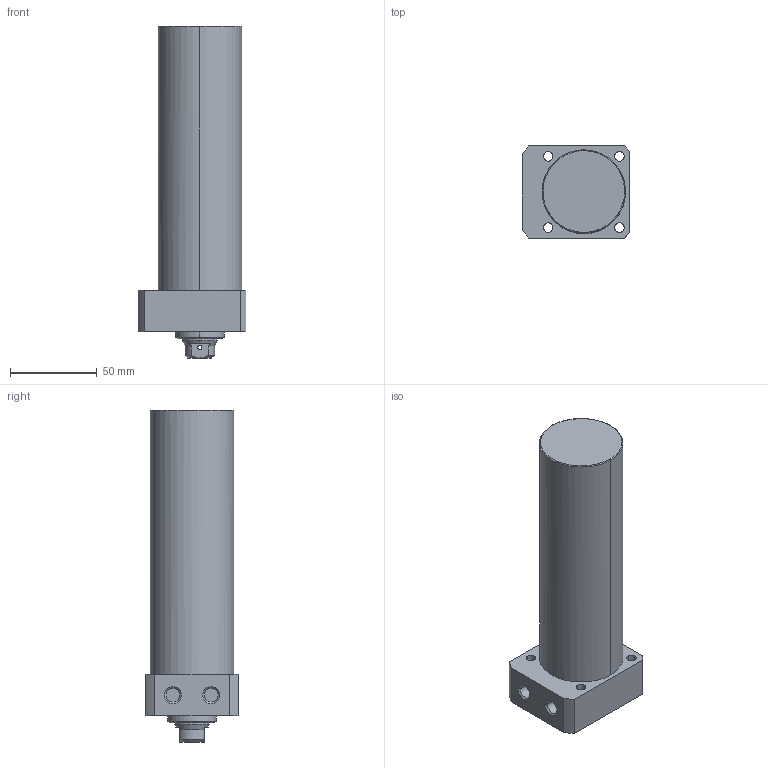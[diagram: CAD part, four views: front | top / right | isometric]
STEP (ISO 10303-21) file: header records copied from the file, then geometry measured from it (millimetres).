
FILE_DESCRIPTION((' '),'2;1');
FILE_NAME( 'TLLR-048CB-125.STEP.stp', '2025-10-24T16:34:34', (' '), ('--- Datakit www.datakit.com---'), ' Datakit CrossCadWare V2024.1 Dec 21 2023', 'Mastercam 2025', ' ');
FILE_SCHEMA(('AUTOMOTIVE_DESIGN { 1 0 10303 214 1 1 1 1 }'));
Length unit declared in the file: millimetre
Products named in the file (1): TLLR-048CB-125
Bounding box: 62 x 53 x 191 mm (x, y, z)
Volume: 353366.9 mm3; surface area: 38323.1 mm2
Topology: 1 solids, 1 shells, 67 faces, 197 edges, 136 vertices
Faces by surface type: cylinder 32, plane 19, cone 14, torus 2
Entity records: 3066 total; most frequent: CARTESIAN_POINT 1147, DIRECTION 426, ORIENTED_EDGE 390, EDGE_CURVE 195, AXIS2_PLACEMENT_3D 179, VERTEX_POINT 136, CIRCLE 111, EDGE_LOOP 85
